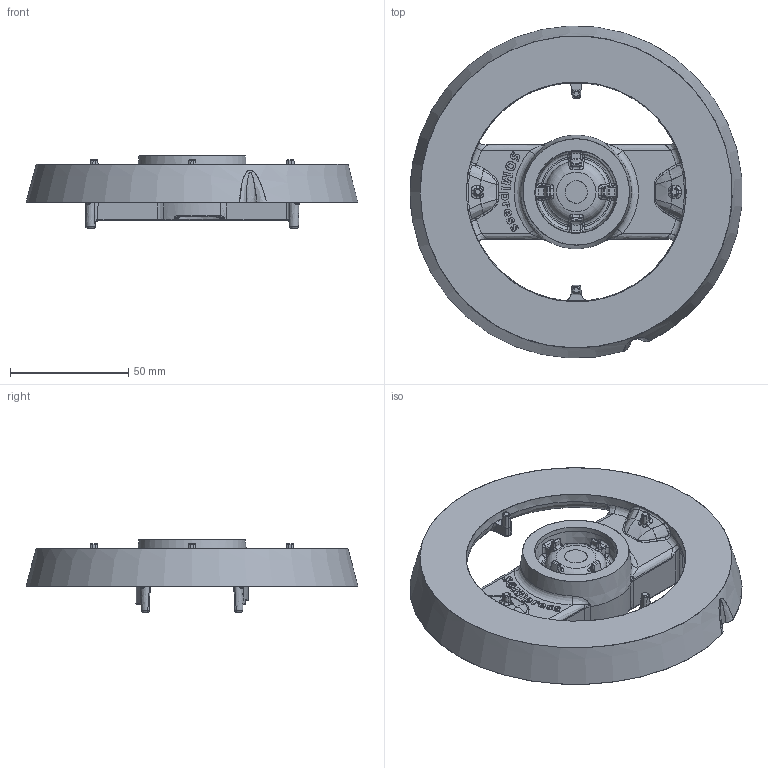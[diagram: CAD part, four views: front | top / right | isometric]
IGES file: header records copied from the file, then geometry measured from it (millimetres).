
Start section: --------------------------------------------------------------------- IGES file generated by CADlook_v12.0.  Visit http://www.cadlook.com for more information on CADlook translators and viewers. ---------------------------------------------------------------------
Global section: file name: D:\File_clienti\Brasile\Fischer\Cor-Sup_TC_02-A3.igs; native system: Cimatron E 9.0; preprocessor: CADlook_v12.0; author: aquintaba; organization: None; date: 20100422.125406; units: millimetre
Bounding box: 140.37 x 140.43 x 30.5 mm (x, y, z)
Surface area: 44877.2 mm2 (no closed solid volume)
Topology: 0 solids, 0 shells, 1892 faces, 12376 edges, 13601 vertices
Faces by surface type: bspline 1600, revolution 292
